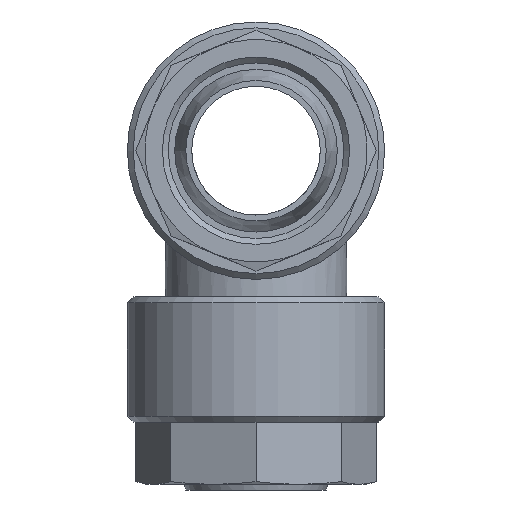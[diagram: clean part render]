
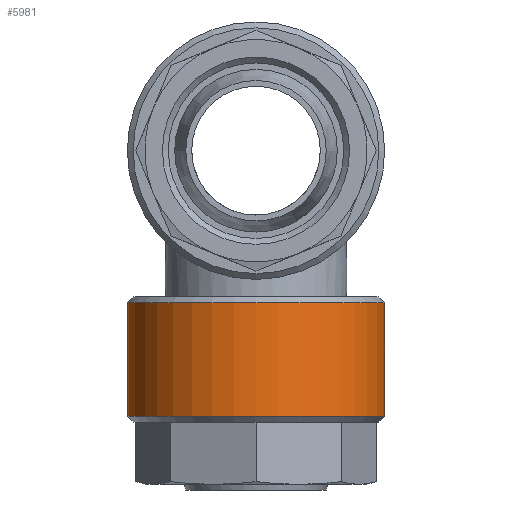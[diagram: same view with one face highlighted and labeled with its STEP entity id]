
A CAD part, left-side view. The second image highlights one B-rep face of the part: STEP entity #5981.
In plain terms, the highlighted cylindrical face has radius 11 mm (diameter 22 mm), a full revolution.
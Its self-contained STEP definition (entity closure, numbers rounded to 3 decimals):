
#3247=CYLINDRICAL_SURFACE('',#5652,11.);
#3376=ORIENTED_EDGE('',*,*,#4206,.F.);
#3377=ORIENTED_EDGE('',*,*,#4207,.F.);
#3866=CIRCLE('',#5651,11.);
#3867=CIRCLE('',#5653,11.);
#3988=VERTEX_POINT('',#6211);
#3989=VERTEX_POINT('',#6214);
#4206=EDGE_CURVE('',#3988,#3988,#3866,.T.);
#4207=EDGE_CURVE('',#3989,#3989,#3867,.T.);
#4474=EDGE_LOOP('',(#3376));
#4475=EDGE_LOOP('',(#3377));
#4686=FACE_BOUND('',#4474,.T.);
#4687=FACE_BOUND('',#4475,.T.);
#4990=DIRECTION('',(0.,1.,0.));
#4991=DIRECTION('',(0.,0.,11.));
#4992=DIRECTION('',(0.,1.,0.));
#4993=DIRECTION('',(1.,0.,0.));
#4994=DIRECTION('',(0.,-1.,0.));
#4995=DIRECTION('',(0.,0.,11.));
#5651=AXIS2_PLACEMENT_3D('',#6212,#4990,#4991);
#5652=AXIS2_PLACEMENT_3D('',#6213,#4992,#4993);
#5653=AXIS2_PLACEMENT_3D('',#6215,#4994,#4995);
#5981=ADVANCED_FACE('',(#4686,#4687),#3247,.T.);
#6211=CARTESIAN_POINT('',(26.989,24.795,11.));
#6212=CARTESIAN_POINT('',(26.989,24.795,0.));
#6213=CARTESIAN_POINT('',(26.989,15.095,0.));
#6214=CARTESIAN_POINT('',(26.989,15.095,11.));
#6215=CARTESIAN_POINT('',(26.989,15.095,0.));
